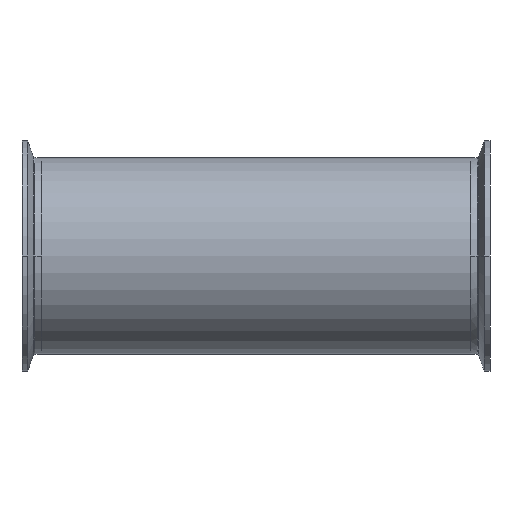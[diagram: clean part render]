
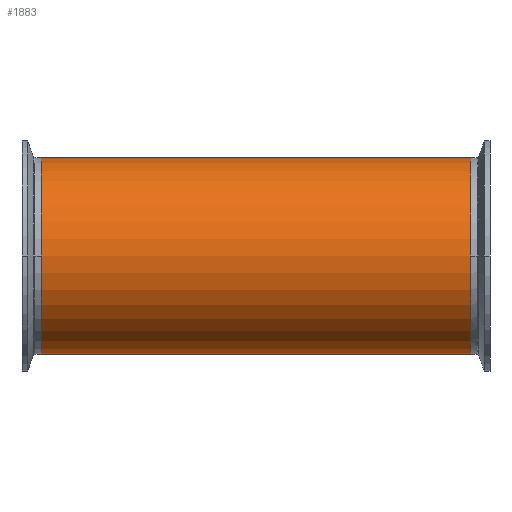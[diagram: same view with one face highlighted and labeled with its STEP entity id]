
A CAD part, front view. The second image highlights one B-rep face of the part: STEP entity #1883.
In plain terms, the highlighted cylindrical face has radius 50.8 mm (diameter 101.6 mm), a partial arc.
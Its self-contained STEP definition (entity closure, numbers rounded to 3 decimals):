
#261 = ORIENTED_EDGE ( 'NONE', *, *, #3456, .T. ) ;
#276 = VERTEX_POINT ( 'NONE', #2919 ) ;
#399 = DIRECTION ( 'NONE',  ( -1., 0., 0. ) ) ;
#413 = EDGE_LOOP ( 'NONE', ( #1202, #261, #886, #488 ) ) ;
#424 = CARTESIAN_POINT ( 'NONE',  ( 254.384, 0., -50.8 ) ) ;
#488 = ORIENTED_EDGE ( 'NONE', *, *, #1940, .T. ) ;
#541 = VERTEX_POINT ( 'NONE', #2372 ) ;
#676 = CARTESIAN_POINT ( 'NONE',  ( 110.7, 0., 0. ) ) ;
#856 = LINE ( 'NONE', #2508, #4076 ) ;
#886 = ORIENTED_EDGE ( 'NONE', *, *, #1815, .T. ) ;
#953 = VERTEX_POINT ( 'NONE', #3778 ) ;
#971 = CARTESIAN_POINT ( 'NONE',  ( -110.7, 0., -50.8 ) ) ;
#1005 = DIRECTION ( 'NONE',  ( 0., 0., 1. ) ) ;
#1148 = DIRECTION ( 'NONE',  ( -1., 0., 0. ) ) ;
#1202 = ORIENTED_EDGE ( 'NONE', *, *, #1494, .F. ) ;
#1448 = AXIS2_PLACEMENT_3D ( 'NONE', #1780, #1148, #3556 ) ;
#1494 = EDGE_CURVE ( 'NONE', #953, #2926, #3007, .T. ) ;
#1676 = AXIS2_PLACEMENT_3D ( 'NONE', #2679, #2666, #2615 ) ;
#1680 = CIRCLE ( 'NONE', #2327, 50.8 ) ;
#1780 = CARTESIAN_POINT ( 'NONE',  ( 254.384, 0., 0. ) ) ;
#1815 = EDGE_CURVE ( 'NONE', #541, #276, #856, .T. ) ;
#1883 = ADVANCED_FACE ( 'NONE', ( #2306 ), #3886, .T. ) ;
#1898 = DIRECTION ( 'NONE',  ( -1., 0., 0. ) ) ;
#1940 = EDGE_CURVE ( 'NONE', #276, #2926, #3050, .T. ) ;
#2167 = VECTOR ( 'NONE', #399, 1000. ) ;
#2306 = FACE_OUTER_BOUND ( 'NONE', #413, .T. ) ;
#2327 = AXIS2_PLACEMENT_3D ( 'NONE', #676, #2956, #1005 ) ;
#2372 = CARTESIAN_POINT ( 'NONE',  ( 110.7, 0., 50.8 ) ) ;
#2508 = CARTESIAN_POINT ( 'NONE',  ( 254.384, 0., 50.8 ) ) ;
#2615 = DIRECTION ( 'NONE',  ( 0., 0., 1. ) ) ;
#2666 = DIRECTION ( 'NONE',  ( 1., 0., 0. ) ) ;
#2679 = CARTESIAN_POINT ( 'NONE',  ( -110.7, 0., 0. ) ) ;
#2919 = CARTESIAN_POINT ( 'NONE',  ( -110.7, 0., 50.8 ) ) ;
#2926 = VERTEX_POINT ( 'NONE', #971 ) ;
#2956 = DIRECTION ( 'NONE',  ( -1., 0., 0. ) ) ;
#3007 = LINE ( 'NONE', #424, #2167 ) ;
#3050 = CIRCLE ( 'NONE', #1676, 50.8 ) ;
#3456 = EDGE_CURVE ( 'NONE', #953, #541, #1680, .T. ) ;
#3556 = DIRECTION ( 'NONE',  ( 0., 0., 1. ) ) ;
#3778 = CARTESIAN_POINT ( 'NONE',  ( 110.7, 0., -50.8 ) ) ;
#3886 = CYLINDRICAL_SURFACE ( 'NONE', #1448, 50.8 ) ;
#4076 = VECTOR ( 'NONE', #1898, 1000. ) ;
